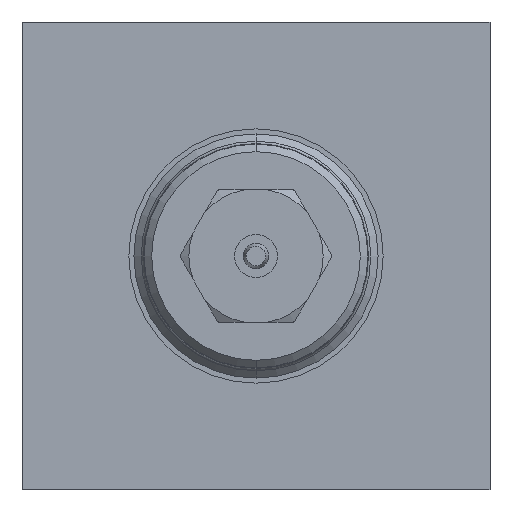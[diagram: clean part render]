
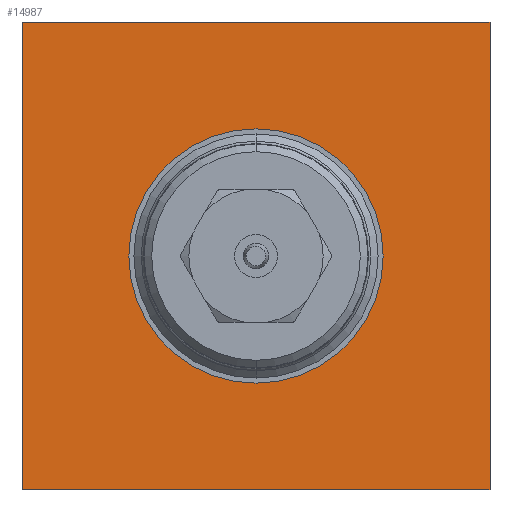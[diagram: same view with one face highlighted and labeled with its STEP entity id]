
A CAD part, left-side view. The second image highlights one B-rep face of the part: STEP entity #14987.
In plain terms, the highlighted planar face has unit normal (-1, 0, 0).
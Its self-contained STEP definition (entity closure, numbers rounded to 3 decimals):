
#318 = VERTEX_POINT ( 'NONE', #5819 ) ;
#927 = DIRECTION ( 'NONE',  ( 0., 0., 1. ) ) ;
#1205 = VECTOR ( 'NONE', #8719, 1000. ) ;
#1877 = FACE_BOUND ( 'NONE', #3462, .T. ) ;
#2372 = VERTEX_POINT ( 'NONE', #8708 ) ;
#3388 = CARTESIAN_POINT ( 'NONE',  ( 0., 23., 23. ) ) ;
#3462 = EDGE_LOOP ( 'NONE', ( #9113, #12424 ) ) ;
#3503 = EDGE_LOOP ( 'NONE', ( #9185, #7941, #9397, #4935 ) ) ;
#3549 = VECTOR ( 'NONE', #3664, 1000. ) ;
#3664 = DIRECTION ( 'NONE',  ( 0., 0., 1. ) ) ;
#4401 = CARTESIAN_POINT ( 'NONE',  ( 0., -12.5, 0. ) ) ;
#4489 = LINE ( 'NONE', #3388, #3549 ) ;
#4935 = ORIENTED_EDGE ( 'NONE', *, *, #18020, .F. ) ;
#5819 = CARTESIAN_POINT ( 'NONE',  ( 0., 23., 23. ) ) ;
#6142 = CARTESIAN_POINT ( 'NONE',  ( 0., 23., -23. ) ) ;
#6172 = EDGE_CURVE ( 'NONE', #8802, #7149, #12480, .T. ) ;
#6503 = DIRECTION ( 'NONE',  ( 0., -1., 0. ) ) ;
#6537 = DIRECTION ( 'NONE',  ( -1., 0., 0. ) ) ;
#6556 = CARTESIAN_POINT ( 'NONE',  ( 0., 0., 0. ) ) ;
#6770 = LINE ( 'NONE', #16514, #17329 ) ;
#7149 = VERTEX_POINT ( 'NONE', #14163 ) ;
#7229 = VERTEX_POINT ( 'NONE', #13552 ) ;
#7941 = ORIENTED_EDGE ( 'NONE', *, *, #10192, .F. ) ;
#8092 = VECTOR ( 'NONE', #11056, 1000. ) ;
#8273 = CARTESIAN_POINT ( 'NONE',  ( 0., -23., 23. ) ) ;
#8605 = EDGE_CURVE ( 'NONE', #7149, #8802, #18335, .T. ) ;
#8708 = CARTESIAN_POINT ( 'NONE',  ( 0., -23., 23. ) ) ;
#8719 = DIRECTION ( 'NONE',  ( 0., -1., 0. ) ) ;
#8802 = VERTEX_POINT ( 'NONE', #4401 ) ;
#9113 = ORIENTED_EDGE ( 'NONE', *, *, #6172, .F. ) ;
#9185 = ORIENTED_EDGE ( 'NONE', *, *, #18480, .F. ) ;
#9397 = ORIENTED_EDGE ( 'NONE', *, *, #11474, .F. ) ;
#10192 = EDGE_CURVE ( 'NONE', #2372, #7229, #15744, .T. ) ;
#10436 = VERTEX_POINT ( 'NONE', #6142 ) ;
#11056 = DIRECTION ( 'NONE',  ( 0., 0., -1. ) ) ;
#11442 = CARTESIAN_POINT ( 'NONE',  ( 0., -23., 23. ) ) ;
#11474 = EDGE_CURVE ( 'NONE', #318, #2372, #13008, .T. ) ;
#11637 = DIRECTION ( 'NONE',  ( 0., -1., 0. ) ) ;
#11652 = DIRECTION ( 'NONE',  ( -1., 0., 0. ) ) ;
#11703 = CARTESIAN_POINT ( 'NONE',  ( 0., 0., 0. ) ) ;
#12424 = ORIENTED_EDGE ( 'NONE', *, *, #8605, .F. ) ;
#12480 = CIRCLE ( 'NONE', #13653, 12.5 ) ;
#13008 = LINE ( 'NONE', #8273, #1205 ) ;
#13196 = FACE_OUTER_BOUND ( 'NONE', #3503, .T. ) ;
#13552 = CARTESIAN_POINT ( 'NONE',  ( 0., -23., -23. ) ) ;
#13653 = AXIS2_PLACEMENT_3D ( 'NONE', #11703, #11652, #11637 ) ;
#14163 = CARTESIAN_POINT ( 'NONE',  ( 0., 12.5, 0. ) ) ;
#14513 = DIRECTION ( 'NONE',  ( -1., 0., 0. ) ) ;
#14534 = CARTESIAN_POINT ( 'NONE',  ( 0., 0., 0. ) ) ;
#14987 = ADVANCED_FACE ( 'NONE', ( #13196, #1877 ), #15101, .T. ) ;
#15101 = PLANE ( 'NONE',  #15122 ) ;
#15122 = AXIS2_PLACEMENT_3D ( 'NONE', #14534, #14513, #927 ) ;
#15744 = LINE ( 'NONE', #11442, #8092 ) ;
#16450 = DIRECTION ( 'NONE',  ( 0., 1., 0. ) ) ;
#16514 = CARTESIAN_POINT ( 'NONE',  ( 0., -23., -23. ) ) ;
#17329 = VECTOR ( 'NONE', #16450, 1000. ) ;
#18020 = EDGE_CURVE ( 'NONE', #10436, #318, #4489, .T. ) ;
#18291 = AXIS2_PLACEMENT_3D ( 'NONE', #6556, #6537, #6503 ) ;
#18335 = CIRCLE ( 'NONE', #18291, 12.5 ) ;
#18480 = EDGE_CURVE ( 'NONE', #7229, #10436, #6770, .T. ) ;
